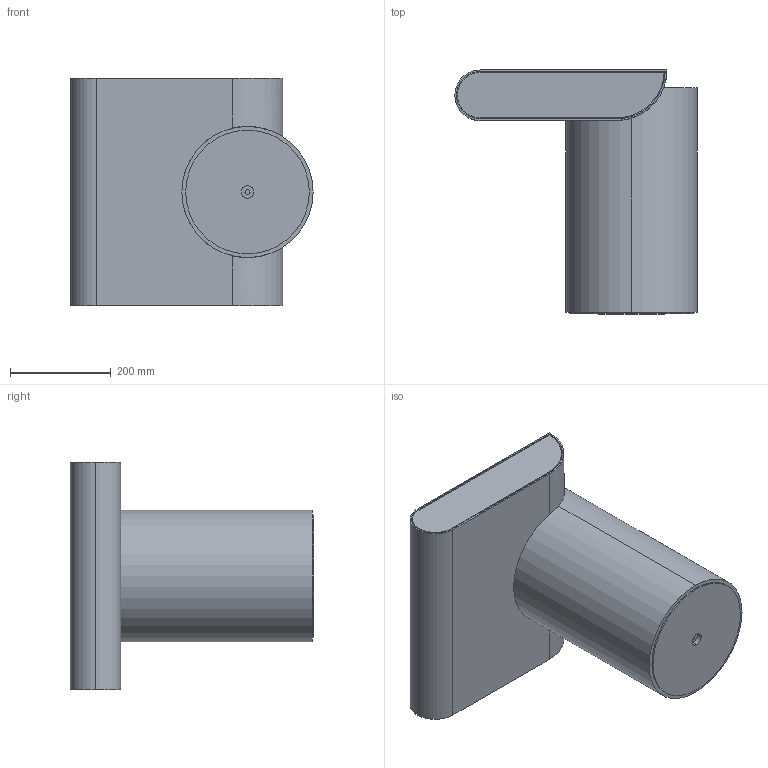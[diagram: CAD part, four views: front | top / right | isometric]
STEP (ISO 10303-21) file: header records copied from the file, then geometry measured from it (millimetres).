
FILE_DESCRIPTION (( 'STEP AP214' ), '1' );
FILE_NAME ('Garçon_3D.STEP', '2026-05-04T13:38:26', ( '' ), ( '' ), 'SwSTEP 2.0', 'SolidWorks 2025', '' );
FILE_SCHEMA (( 'AUTOMOTIVE_DESIGN' ));
Length unit declared in the file: millimetre
Products named in the file (5): Tavolino_BASE_TUBOLARE_FORI ATTUALI; Tavolino_PIANO_INCASTRI_LATERALI_COMPLETO; Garçon_3D; Tavolino_TAPPO_CHIUSURA_Sotto_mdf_Verniciato-NeroOpaco; Tavolino_Piano_LATERALE
Assembly tree (5 placements, depth 2):
  Garçon_3D
    Tavolino_TAPPO_CHIUSURA_Sotto_mdf_Verniciato-NeroOpaco
    Tavolino_BASE_TUBOLARE_FORI ATTUALI
    Tavolino_Piano_LATERALE  x2
    Tavolino_PIANO_INCASTRI_LATERALI_COMPLETO
Bounding box: 480 x 483 x 450 mm (x, y, z)
Volume: 23414078.9 mm3; surface area: 1586161.5 mm2
Topology: 5 solids, 5 shells, 85 faces, 194 edges, 120 vertices
Faces by surface type: cylinder 43, plane 26, cone 16
Entity records: 2405 total; most frequent: DIRECTION 429, CARTESIAN_POINT 427, ORIENTED_EDGE 342, AXIS2_PLACEMENT_3D 174, EDGE_CURVE 171, VERTEX_POINT 110, EDGE_LOOP 97, CIRCLE 88
